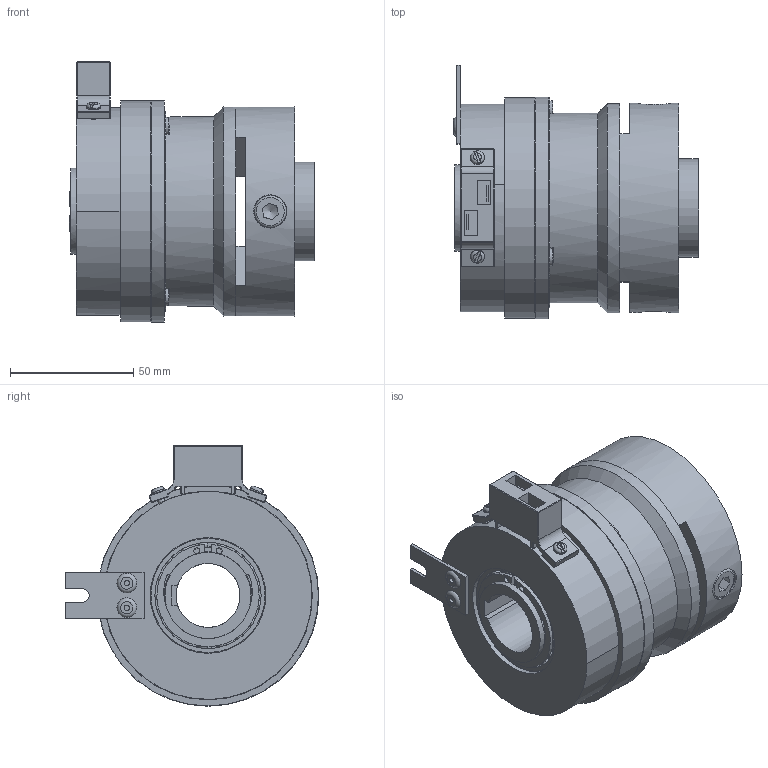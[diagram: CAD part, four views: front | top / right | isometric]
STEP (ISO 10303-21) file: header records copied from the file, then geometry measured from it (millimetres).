
FILE_DESCRIPTION(/* description */ (''),/* implementation_level */ '2;1');
FILE_NAME(/* name */ 'X:\INVENTOR\DISEGNI\08_Freni_Friz_Elettmag_Monodisco\08_26 EMSL_DF\EMSL_DF STEP\08_26_090_51 EMSL090_DF-GE_S@STEP.stp',/* time_stamp */ '2018-04-24T10:10:34+02:00',/* author */ ('stefano'),/* organization */ (''),/* preprocessor_version */ 'ST-DEVELOPER v17',/* originating_system */ 'Autodesk Inventor 2018',/* authorisation */ '');
FILE_SCHEMA (('AUTOMOTIVE_DESIGN { 1 0 10303 214 3 1 1 }'));
Length unit declared in the file: millimetre
Products named in the file (1): 08_26_090_51 EMSL090_DF-GE - Spina_Substitute_1
Bounding box: 99.6 x 103 x 105.8 mm (x, y, z)
Volume: 388615.9 mm3; surface area: 105717.2 mm2
Topology: 2 solids, 2 shells, 612 faces, 1788 edges, 1147 vertices
Faces by surface type: cylinder 250, plane 228, torus 69, sphere 41, cone 24
Full cylindrical faces by diameter (mm): 1.5 x3, 2.2 x2, 2.5 x4, 3 x2, 4.134 x3, 5.1 x9, 5.6 x2, 6 x1, 6.647 x2, 7 x3, 13 x4, 13.5 x4, 33 x2, 35 x5, 38.84 x2, 39 x2, 40 x3, 43.16 x2, 46.7 x1, 47 x5, 49.5 x1, 54 x1, 77 x1, 80 x1, 84.8 x1, 85 x2, 89.8 x1, 90 x1
Entity records: 22771 total; most frequent: CARTESIAN_POINT 5677, DIRECTION 3728, ORIENTED_EDGE 3454, EDGE_CURVE 1727, AXIS2_PLACEMENT_3D 1579, VERTEX_POINT 1147, CIRCLE 966, EDGE_LOOP 755
